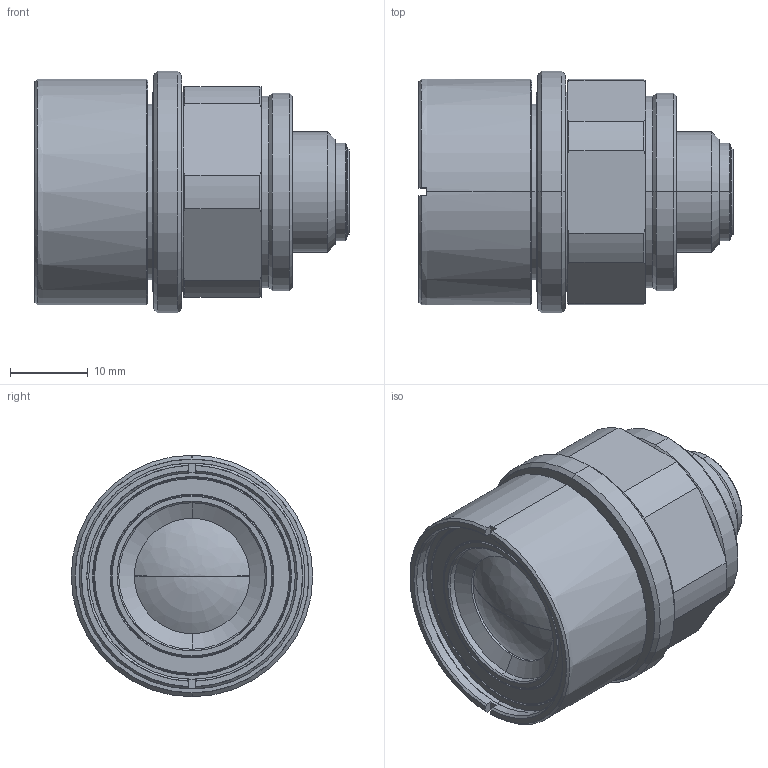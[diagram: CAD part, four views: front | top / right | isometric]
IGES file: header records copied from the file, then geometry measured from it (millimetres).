
Start section: SolidWorks IGES file using analytic representation for surfaces
Global section: file name: C:\Users\tsuji_vst\Documents\【作業フォルダ】\_3D\00 VST\MCA\確認待ち\VS-MCA4\VS-MCA4.IGS; native system: SolidWorks 2017; preprocessor: SolidWorks 2017; author: tsuji_vst; date: 171011.142829; units: millimetre
Bounding box: 40.32 x 31 x 31 mm (x, y, z)
Surface area: 7152.3 mm2 (no closed solid volume)
Topology: 0 solids, 0 shells, 151 faces, 1932 edges, 1930 vertices
Faces by surface type: revolution 118, bspline 33
